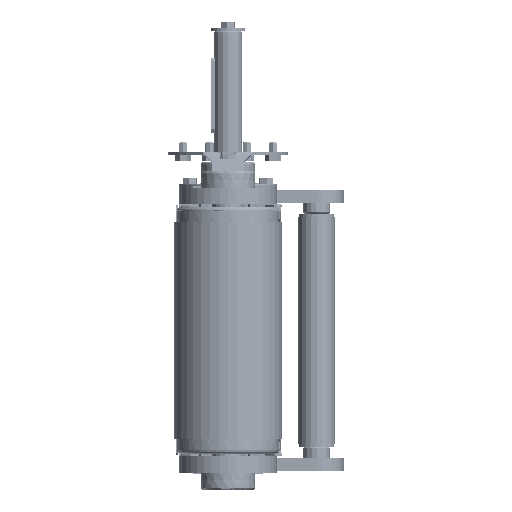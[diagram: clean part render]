
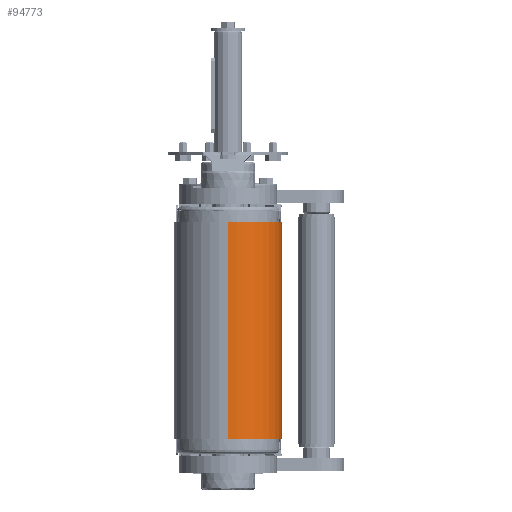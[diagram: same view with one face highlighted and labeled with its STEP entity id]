
A CAD part, left-side view. The second image highlights one B-rep face of the part: STEP entity #94773.
In plain terms, the highlighted cylindrical face has radius 49.5 mm (diameter 99 mm), a partial arc.
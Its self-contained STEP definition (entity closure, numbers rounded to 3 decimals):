
#9143 = AXIS2_PLACEMENT_3D ( 'NONE', #194730, #81232, #18175 ) ;
#11613 = CARTESIAN_POINT ( 'NONE',  ( -6750., 0., 100. ) ) ;
#11742 = ORIENTED_EDGE ( 'NONE', *, *, #100781, .T. ) ;
#18114 = DIRECTION ( 'NONE',  ( 0., 0., 1. ) ) ;
#18175 = DIRECTION ( 'NONE',  ( -1., 0., 0. ) ) ;
#28604 = VERTEX_POINT ( 'NONE', #243938 ) ;
#29362 = EDGE_CURVE ( 'NONE', #135853, #230677, #83567, .T. ) ;
#49050 = DIRECTION ( 'NONE',  ( 1., 0., 0. ) ) ;
#51435 = EDGE_CURVE ( 'NONE', #213922, #135853, #172652, .T. ) ;
#65829 = DIRECTION ( 'NONE',  ( 0., 0., 1. ) ) ;
#69246 = CIRCLE ( 'NONE', #246234, 49.5 ) ;
#81232 = DIRECTION ( 'NONE',  ( 0., 0., -1. ) ) ;
#81773 = EDGE_LOOP ( 'NONE', ( #103288, #83033, #11742, #197812 ) ) ;
#83033 = ORIENTED_EDGE ( 'NONE', *, *, #167678, .T. ) ;
#83567 = LINE ( 'NONE', #225298, #173821 ) ;
#94773 = ADVANCED_FACE ( 'NONE', ( #98010 ), #177911, .T. ) ;
#98010 = FACE_OUTER_BOUND ( 'NONE', #81773, .T. ) ;
#100781 = EDGE_CURVE ( 'NONE', #28604, #230677, #69246, .T. ) ;
#103288 = ORIENTED_EDGE ( 'NONE', *, *, #51435, .F. ) ;
#119667 = CARTESIAN_POINT ( 'NONE',  ( -6799.5, 0., 100. ) ) ;
#125444 = DIRECTION ( 'NONE',  ( 0., 0., -1. ) ) ;
#135853 = VERTEX_POINT ( 'NONE', #211512 ) ;
#136606 = CARTESIAN_POINT ( 'NONE',  ( -6750., 0., -100. ) ) ;
#158149 = CARTESIAN_POINT ( 'NONE',  ( -6750., -49.5, -100. ) ) ;
#163424 = DIRECTION ( 'NONE',  ( 0., 0., -1. ) ) ;
#167678 = EDGE_CURVE ( 'NONE', #213922, #28604, #241521, .T. ) ;
#167864 = VECTOR ( 'NONE', #125444, 1000. ) ;
#172652 = CIRCLE ( 'NONE', #205587, 49.5 ) ;
#173821 = VECTOR ( 'NONE', #163424, 1000. ) ;
#177911 = CYLINDRICAL_SURFACE ( 'NONE', #9143, 49.5 ) ;
#182215 = CARTESIAN_POINT ( 'NONE',  ( -6799.5, 0., 100. ) ) ;
#194730 = CARTESIAN_POINT ( 'NONE',  ( -6750., 0., 100. ) ) ;
#197812 = ORIENTED_EDGE ( 'NONE', *, *, #29362, .F. ) ;
#205587 = AXIS2_PLACEMENT_3D ( 'NONE', #11613, #65829, #49050 ) ;
#211512 = CARTESIAN_POINT ( 'NONE',  ( -6750., -49.5, 100. ) ) ;
#213922 = VERTEX_POINT ( 'NONE', #119667 ) ;
#214032 = DIRECTION ( 'NONE',  ( 1., 0., 0. ) ) ;
#225298 = CARTESIAN_POINT ( 'NONE',  ( -6750., -49.5, 100. ) ) ;
#230677 = VERTEX_POINT ( 'NONE', #158149 ) ;
#241521 = LINE ( 'NONE', #182215, #167864 ) ;
#243938 = CARTESIAN_POINT ( 'NONE',  ( -6799.5, 0., -100. ) ) ;
#246234 = AXIS2_PLACEMENT_3D ( 'NONE', #136606, #18114, #214032 ) ;
